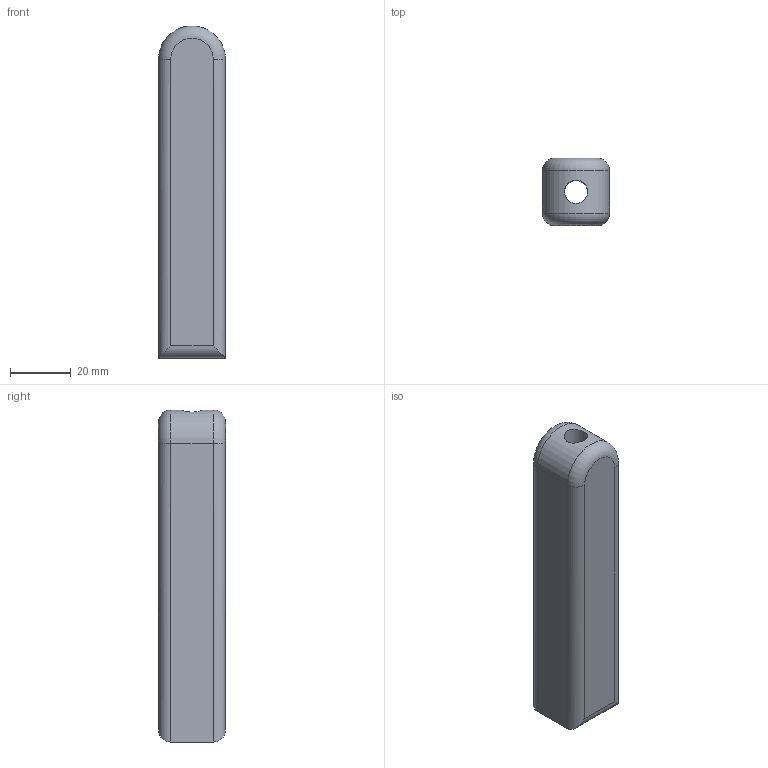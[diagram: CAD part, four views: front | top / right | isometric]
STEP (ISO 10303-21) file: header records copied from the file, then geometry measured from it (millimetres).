
FILE_DESCRIPTION(/* description */ (''),/* implementation_level */ '2;1');
FILE_NAME(/* name */ 'C:/Users/Owner/Desktop/K-CAD Songbird PM4 Centerfire/STEP/Barrels/Barrel Type 1/Barrel Type 1 .3 inch ID.step',/* time_stamp */ '2020-12-05T21:55:55-05:00',/* author */ (''),/* organization */ (''),/* preprocessor_version */ 'ST-DEVELOPER v18.1',/* originating_system */ 'Autodesk Translation Framework v9.3.0.1241',/* authorisation */ '');
FILE_SCHEMA (('AUTOMOTIVE_DESIGN { 1 0 10303 214 3 1 1 }'));
Length unit declared in the file: inch
Products named in the file (1): Barrel Type 1 .3 inch ID
Bounding box: 22 x 22 x 109 mm (x, y, z)
Volume: 44960 mm3; surface area: 11874.4 mm2
Topology: 1 solids, 1 shells, 15 faces, 31 edges, 18 vertices
Faces by surface type: cylinder 8, plane 5, torus 2
Full cylindrical faces by diameter (mm): 7.62 x1
Entity records: 471 total; most frequent: CARTESIAN_POINT 98, DIRECTION 75, ORIENTED_EDGE 62, EDGE_CURVE 31, AXIS2_PLACEMENT_3D 29, VERTEX_POINT 18, EDGE_LOOP 17, LINE 17
